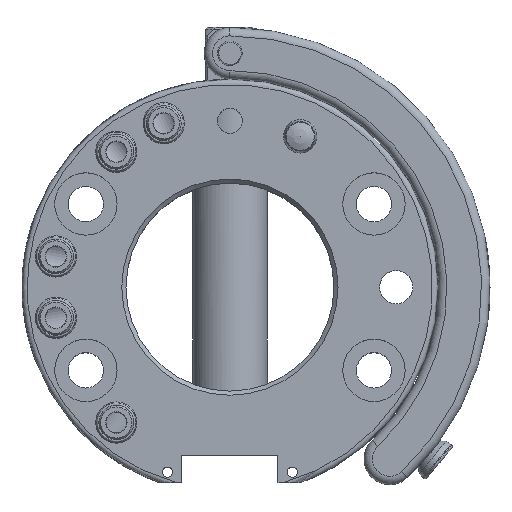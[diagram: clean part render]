
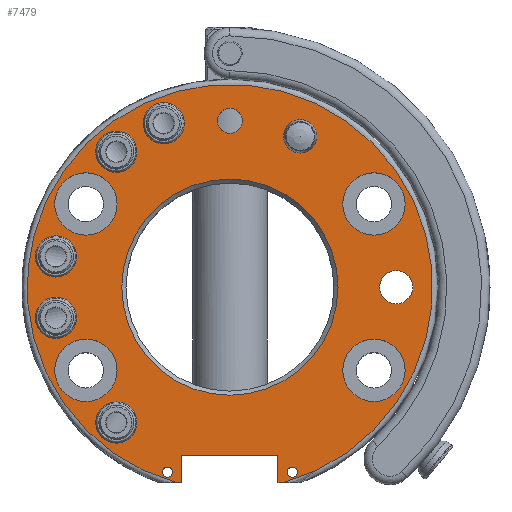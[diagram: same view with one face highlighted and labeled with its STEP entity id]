
A CAD part, top view. The second image highlights one B-rep face of the part: STEP entity #7479.
In plain terms, the highlighted planar face has unit normal (0, 0, 1).
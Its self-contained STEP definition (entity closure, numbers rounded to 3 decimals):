
#187=PLANE('',#8026);
#347=FACE_BOUND('',#1989,.T.);
#348=FACE_BOUND('',#1990,.T.);
#349=FACE_BOUND('',#1991,.T.);
#350=FACE_BOUND('',#1992,.T.);
#351=FACE_BOUND('',#1993,.T.);
#352=FACE_BOUND('',#1994,.T.);
#353=FACE_BOUND('',#1995,.T.);
#354=FACE_BOUND('',#1996,.T.);
#355=FACE_BOUND('',#1997,.T.);
#356=FACE_BOUND('',#1998,.T.);
#357=FACE_BOUND('',#1999,.T.);
#358=FACE_BOUND('',#2000,.T.);
#359=FACE_BOUND('',#2001,.T.);
#360=FACE_BOUND('',#2002,.T.);
#361=FACE_BOUND('',#2003,.T.);
#522=LINE('',#11586,#1016);
#523=LINE('',#11590,#1017);
#524=LINE('',#11592,#1018);
#525=LINE('',#11594,#1019);
#526=LINE('',#11595,#1020);
#1016=VECTOR('',#8889,10.);
#1017=VECTOR('',#8892,10.);
#1018=VECTOR('',#8893,10.);
#1019=VECTOR('',#8894,10.);
#1020=VECTOR('',#8895,10.);
#1543=FACE_OUTER_BOUND('',#1988,.T.);
#1988=EDGE_LOOP('',(#5288,#5289,#5290,#5291,#5292,#5293));
#1989=EDGE_LOOP('',(#5294));
#1990=EDGE_LOOP('',(#5295));
#1991=EDGE_LOOP('',(#5296));
#1992=EDGE_LOOP('',(#5297));
#1993=EDGE_LOOP('',(#5298));
#1994=EDGE_LOOP('',(#5299));
#1995=EDGE_LOOP('',(#5300));
#1996=EDGE_LOOP('',(#5301));
#1997=EDGE_LOOP('',(#5302));
#1998=EDGE_LOOP('',(#5303));
#1999=EDGE_LOOP('',(#5304));
#2000=EDGE_LOOP('',(#5305));
#2001=EDGE_LOOP('',(#5306));
#2002=EDGE_LOOP('',(#5307));
#2003=EDGE_LOOP('',(#5308));
#2486=CIRCLE('',#8022,4.);
#2489=CIRCLE('',#8027,48.75);
#2490=CIRCLE('',#8028,4.95);
#2491=CIRCLE('',#8029,4.95);
#2492=CIRCLE('',#8030,4.95);
#2493=CIRCLE('',#8031,4.95);
#2494=CIRCLE('',#8032,4.95);
#2495=CIRCLE('',#8033,3.);
#2496=CIRCLE('',#8034,1.23);
#2497=CIRCLE('',#8035,1.23);
#2498=CIRCLE('',#8036,7.5);
#2499=CIRCLE('',#8037,7.5);
#2500=CIRCLE('',#8038,7.5);
#2501=CIRCLE('',#8039,7.5);
#2502=CIRCLE('',#8040,4.);
#2503=CIRCLE('',#8041,26.);
#3160=VERTEX_POINT('',#11574);
#3163=VERTEX_POINT('',#11584);
#3164=VERTEX_POINT('',#11585);
#3165=VERTEX_POINT('',#11587);
#3166=VERTEX_POINT('',#11589);
#3167=VERTEX_POINT('',#11591);
#3168=VERTEX_POINT('',#11593);
#3169=VERTEX_POINT('',#11596);
#3170=VERTEX_POINT('',#11598);
#3171=VERTEX_POINT('',#11600);
#3172=VERTEX_POINT('',#11602);
#3173=VERTEX_POINT('',#11604);
#3174=VERTEX_POINT('',#11606);
#3175=VERTEX_POINT('',#11608);
#3176=VERTEX_POINT('',#11610);
#3177=VERTEX_POINT('',#11612);
#3178=VERTEX_POINT('',#11614);
#3179=VERTEX_POINT('',#11616);
#3180=VERTEX_POINT('',#11618);
#3181=VERTEX_POINT('',#11620);
#3182=VERTEX_POINT('',#11622);
#3971=EDGE_CURVE('',#3160,#3160,#2486,.T.);
#3975=EDGE_CURVE('',#3163,#3164,#522,.T.);
#3976=EDGE_CURVE('',#3165,#3164,#2489,.T.);
#3977=EDGE_CURVE('',#3165,#3166,#523,.T.);
#3978=EDGE_CURVE('',#3166,#3167,#524,.T.);
#3979=EDGE_CURVE('',#3167,#3168,#525,.T.);
#3980=EDGE_CURVE('',#3168,#3163,#526,.T.);
#3981=EDGE_CURVE('',#3169,#3169,#2490,.T.);
#3982=EDGE_CURVE('',#3170,#3170,#2491,.T.);
#3983=EDGE_CURVE('',#3171,#3171,#2492,.T.);
#3984=EDGE_CURVE('',#3172,#3172,#2493,.T.);
#3985=EDGE_CURVE('',#3173,#3173,#2494,.T.);
#3986=EDGE_CURVE('',#3174,#3174,#2495,.T.);
#3987=EDGE_CURVE('',#3175,#3175,#2496,.T.);
#3988=EDGE_CURVE('',#3176,#3176,#2497,.T.);
#3989=EDGE_CURVE('',#3177,#3177,#2498,.T.);
#3990=EDGE_CURVE('',#3178,#3178,#2499,.T.);
#3991=EDGE_CURVE('',#3179,#3179,#2500,.T.);
#3992=EDGE_CURVE('',#3180,#3180,#2501,.T.);
#3993=EDGE_CURVE('',#3181,#3181,#2502,.T.);
#3994=EDGE_CURVE('',#3182,#3182,#2503,.T.);
#5288=ORIENTED_EDGE('',*,*,#3975,.T.);
#5289=ORIENTED_EDGE('',*,*,#3976,.F.);
#5290=ORIENTED_EDGE('',*,*,#3977,.T.);
#5291=ORIENTED_EDGE('',*,*,#3978,.T.);
#5292=ORIENTED_EDGE('',*,*,#3979,.T.);
#5293=ORIENTED_EDGE('',*,*,#3980,.T.);
#5294=ORIENTED_EDGE('',*,*,#3981,.T.);
#5295=ORIENTED_EDGE('',*,*,#3982,.T.);
#5296=ORIENTED_EDGE('',*,*,#3983,.T.);
#5297=ORIENTED_EDGE('',*,*,#3984,.T.);
#5298=ORIENTED_EDGE('',*,*,#3985,.T.);
#5299=ORIENTED_EDGE('',*,*,#3986,.T.);
#5300=ORIENTED_EDGE('',*,*,#3987,.T.);
#5301=ORIENTED_EDGE('',*,*,#3988,.T.);
#5302=ORIENTED_EDGE('',*,*,#3989,.T.);
#5303=ORIENTED_EDGE('',*,*,#3990,.T.);
#5304=ORIENTED_EDGE('',*,*,#3991,.T.);
#5305=ORIENTED_EDGE('',*,*,#3992,.T.);
#5306=ORIENTED_EDGE('',*,*,#3993,.T.);
#5307=ORIENTED_EDGE('',*,*,#3971,.T.);
#5308=ORIENTED_EDGE('',*,*,#3994,.F.);
#7479=ADVANCED_FACE('',(#1543,#347,#348,#349,#350,#351,#352,#353,#354,#355,
#356,#357,#358,#359,#360,#361),#187,.T.);
#8022=AXIS2_PLACEMENT_3D('',#11576,#8878,#8879);
#8026=AXIS2_PLACEMENT_3D('',#11583,#8887,#8888);
#8027=AXIS2_PLACEMENT_3D('',#11588,#8890,#8891);
#8028=AXIS2_PLACEMENT_3D('',#11597,#8896,#8897);
#8029=AXIS2_PLACEMENT_3D('',#11599,#8898,#8899);
#8030=AXIS2_PLACEMENT_3D('',#11601,#8900,#8901);
#8031=AXIS2_PLACEMENT_3D('',#11603,#8902,#8903);
#8032=AXIS2_PLACEMENT_3D('',#11605,#8904,#8905);
#8033=AXIS2_PLACEMENT_3D('',#11607,#8906,#8907);
#8034=AXIS2_PLACEMENT_3D('',#11609,#8908,#8909);
#8035=AXIS2_PLACEMENT_3D('',#11611,#8910,#8911);
#8036=AXIS2_PLACEMENT_3D('',#11613,#8912,#8913);
#8037=AXIS2_PLACEMENT_3D('',#11615,#8914,#8915);
#8038=AXIS2_PLACEMENT_3D('',#11617,#8916,#8917);
#8039=AXIS2_PLACEMENT_3D('',#11619,#8918,#8919);
#8040=AXIS2_PLACEMENT_3D('',#11621,#8920,#8921);
#8041=AXIS2_PLACEMENT_3D('',#11623,#8922,#8923);
#8878=DIRECTION('center_axis',(0.,0.,-1.));
#8879=DIRECTION('ref_axis',(-1.,0.,0.));
#8887=DIRECTION('center_axis',(0.,0.,1.));
#8888=DIRECTION('ref_axis',(1.,0.,0.));
#8889=DIRECTION('',(1.,0.,0.));
#8890=DIRECTION('center_axis',(0.,0.,-1.));
#8891=DIRECTION('ref_axis',(-1.,0.,0.));
#8892=DIRECTION('',(1.,0.,0.));
#8893=DIRECTION('',(0.,1.,0.));
#8894=DIRECTION('',(1.,0.,0.));
#8895=DIRECTION('',(0.,-1.,0.));
#8896=DIRECTION('center_axis',(0.,0.,-1.));
#8897=DIRECTION('ref_axis',(-1.,0.,0.));
#8898=DIRECTION('center_axis',(0.,0.,-1.));
#8899=DIRECTION('ref_axis',(-1.,0.,0.));
#8900=DIRECTION('center_axis',(0.,0.,-1.));
#8901=DIRECTION('ref_axis',(-1.,0.,0.));
#8902=DIRECTION('center_axis',(0.,0.,-1.));
#8903=DIRECTION('ref_axis',(-1.,0.,0.));
#8904=DIRECTION('center_axis',(0.,0.,-1.));
#8905=DIRECTION('ref_axis',(-1.,0.,0.));
#8906=DIRECTION('center_axis',(0.,0.,-1.));
#8907=DIRECTION('ref_axis',(1.,0.,0.));
#8908=DIRECTION('center_axis',(0.,0.,-1.));
#8909=DIRECTION('ref_axis',(-1.,0.,0.));
#8910=DIRECTION('center_axis',(0.,0.,-1.));
#8911=DIRECTION('ref_axis',(-1.,0.,0.));
#8912=DIRECTION('center_axis',(0.,0.,-1.));
#8913=DIRECTION('ref_axis',(1.,0.,0.));
#8914=DIRECTION('center_axis',(0.,0.,-1.));
#8915=DIRECTION('ref_axis',(1.,0.,0.));
#8916=DIRECTION('center_axis',(0.,0.,-1.));
#8917=DIRECTION('ref_axis',(1.,0.,0.));
#8918=DIRECTION('center_axis',(0.,0.,-1.));
#8919=DIRECTION('ref_axis',(1.,0.,0.));
#8920=DIRECTION('center_axis',(0.,0.,-1.));
#8921=DIRECTION('ref_axis',(1.,0.,0.));
#8922=DIRECTION('center_axis',(0.,0.,1.));
#8923=DIRECTION('ref_axis',(-1.,0.,0.));
#11574=CARTESIAN_POINT('',(44.,0.,32.));
#11576=CARTESIAN_POINT('Origin',(40.,0.,32.));
#11583=CARTESIAN_POINT('Origin',(0.,0.,32.));
#11584=CARTESIAN_POINT('',(11.55,-47.,32.));
#11585=CARTESIAN_POINT('',(12.945,-47.,32.));
#11586=CARTESIAN_POINT('',(8.529,-47.,32.));
#11587=CARTESIAN_POINT('',(-12.945,-47.,32.));
#11588=CARTESIAN_POINT('Origin',(0.,0.,32.));
#11589=CARTESIAN_POINT('',(-11.55,-47.,32.));
#11590=CARTESIAN_POINT('',(-5.775,-47.,32.));
#11591=CARTESIAN_POINT('',(-11.55,-40.5,32.));
#11592=CARTESIAN_POINT('',(-11.55,-20.25,32.));
#11593=CARTESIAN_POINT('',(11.55,-40.5,32.));
#11594=CARTESIAN_POINT('',(5.775,-40.5,32.));
#11595=CARTESIAN_POINT('',(11.55,-23.5,32.));
#11596=CARTESIAN_POINT('',(-10.971,39.405,32.));
#11597=CARTESIAN_POINT('Origin',(-15.921,39.405,32.));
#11598=CARTESIAN_POINT('',(-22.368,32.557,32.));
#11599=CARTESIAN_POINT('Origin',(-27.318,32.557,32.));
#11600=CARTESIAN_POINT('',(-36.904,7.38,32.));
#11601=CARTESIAN_POINT('Origin',(-41.854,7.38,32.));
#11602=CARTESIAN_POINT('',(-36.904,-7.38,32.));
#11603=CARTESIAN_POINT('Origin',(-41.854,-7.38,32.));
#11604=CARTESIAN_POINT('',(-22.368,-32.557,32.));
#11605=CARTESIAN_POINT('Origin',(-27.318,-32.557,32.));
#11606=CARTESIAN_POINT('',(-3.,40.,32.));
#11607=CARTESIAN_POINT('Origin',(0.,40.,32.));
#11608=CARTESIAN_POINT('',(16.23,-44.5,32.));
#11609=CARTESIAN_POINT('Origin',(15.,-44.5,32.));
#11610=CARTESIAN_POINT('',(-13.771,-44.5,32.));
#11611=CARTESIAN_POINT('Origin',(-15.,-44.5,32.));
#11612=CARTESIAN_POINT('',(-42.141,-20.,32.));
#11613=CARTESIAN_POINT('Origin',(-34.641,-20.,32.));
#11614=CARTESIAN_POINT('',(27.141,-20.,32.));
#11615=CARTESIAN_POINT('Origin',(34.641,-20.,32.));
#11616=CARTESIAN_POINT('',(27.141,20.,32.));
#11617=CARTESIAN_POINT('Origin',(34.641,20.,32.));
#11618=CARTESIAN_POINT('',(-42.141,20.,32.));
#11619=CARTESIAN_POINT('Origin',(-34.641,20.,32.));
#11620=CARTESIAN_POINT('',(16.905,32.252,32.));
#11621=CARTESIAN_POINT('Origin',(16.905,36.252,32.));
#11622=CARTESIAN_POINT('',(26.,0.,32.));
#11623=CARTESIAN_POINT('Origin',(0.,0.,32.));
